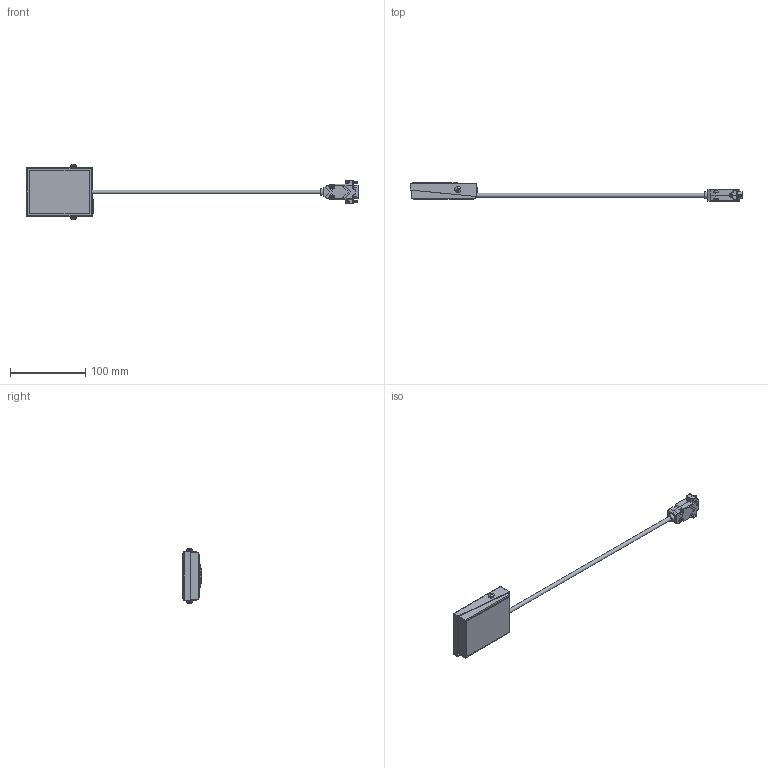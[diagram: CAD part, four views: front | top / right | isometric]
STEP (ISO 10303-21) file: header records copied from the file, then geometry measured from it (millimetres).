
FILE_DESCRIPTION((''),'2;1');
FILE_NAME('C:\3D Projects\97201 Footswitch\97201 Rev C Foot Switch Assembly.stp','2008-10-01T16:01:57',('patch'),(''),'Autodesk Inventor 2009','Autodesk Inventor 2009','');
FILE_SCHEMA(('AUTOMOTIVE_DESIGN { 1 0 10303 214 1 1 1 1 }'));
Length unit declared in the file: inch
Products named in the file (16): 97201 Rev C Foot Switch Assembly; 8900084 Foot Switch; Phillips Round Head Screw #8-32 x 0.5; 988806 Foot Switch Product Label; 8900138 Rev A D-Sub 9 Pin Connector Assembly; 8900141 D-Sub 9 Pin Male Connector Rear Shell; 8900141 D-Sub 9 Pin Male Connector Insulator; 8900141 D-Sub 9 Pin Male Connector Pin; 8900141 D-Sub 9 Pin Male Connector Front Shell; 8900257 Fillister Head Slotted #4-40 x 0.5; 8900257 Fillister Head Slotted #4-40 x 0.437; 8900257 Saddle Washer #4; 8900257 Rev A 9 Pin D-Sub Groove Shell; 8900257 Rev A 9 Pin D-Sub Strain Relief Range .210-.350; 8900257 Rev A 9 Pin D-Sub Tongue Shell; Hex Nut 4-40
Assembly tree (28 placements, depth 3):
  97201 Rev C Foot Switch Assembly
    8900084 Foot Switch
    Phillips Round Head Screw #8-32 x 0.5  x2
    988806 Foot Switch Product Label
    8900138 Rev A D-Sub 9 Pin Connector Assembly
      8900141 D-Sub 9 Pin Male Connector Rear Shell
      8900141 D-Sub 9 Pin Male Connector Insulator
      8900141 D-Sub 9 Pin Male Connector Pin  x9
      8900141 D-Sub 9 Pin Male Connector Front Shell
      8900257 Fillister Head Slotted #4-40 x 0.5  x2
      8900257 Fillister Head Slotted #4-40 x 0.437  x2
      8900257 Saddle Washer #4  x2
      8900257 Rev A 9 Pin D-Sub Groove Shell
      8900257 Rev A 9 Pin D-Sub Strain Relief Range .210-.350
      8900257 Rev A 9 Pin D-Sub Tongue Shell
      Hex Nut 4-40  x2
Bounding box: 441.17 x 24.98 x 74.1 mm (x, y, z)
Volume: 120519.6 mm3; surface area: 54296.5 mm2
Topology: 28 solids, 28 shells, 1279 faces, 4309 edges, 3141 vertices
Faces by surface type: plane 581, bspline 330, cylinder 280, torus 32, sphere 30, cone 26
Full cylindrical faces by diameter (mm): 0.965 x9, 0.991 x9, 1.511 x9, 3.048 x4, 3.2 x2, 3.962 x3, 4.369 x3, 4.47 x1, 4.648 x4, 5.182 x1, 5.334 x1, 7.188 x1, 7.849 x2, 9.119 x1, 12.065 x1
Entity records: 47475 total; most frequent: CARTESIAN_POINT 18976, ORIENTED_EDGE 6570, DIRECTION 4685, EDGE_CURVE 3285, VERTEX_POINT 2327, VECTOR 1679, LINE 1679, AXIS2_PLACEMENT_3D 1503
